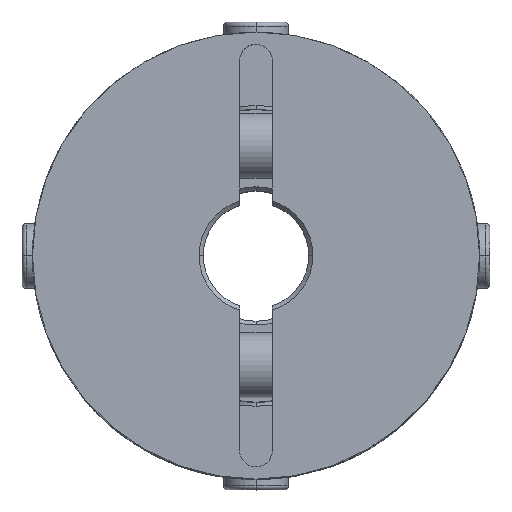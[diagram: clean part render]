
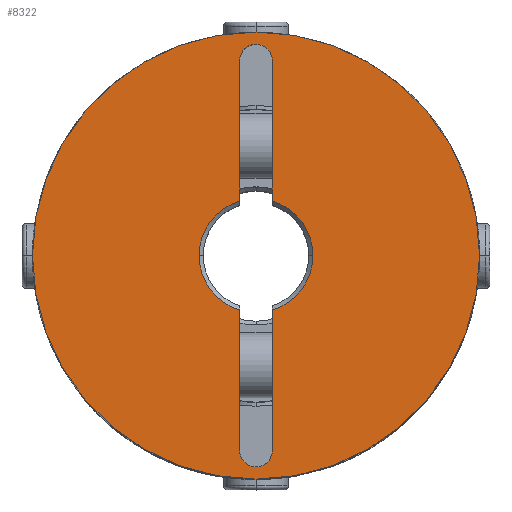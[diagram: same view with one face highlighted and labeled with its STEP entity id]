
A CAD part, top view. The second image highlights one B-rep face of the part: STEP entity #8322.
In plain terms, the highlighted planar face has unit normal (0, 0, 1).
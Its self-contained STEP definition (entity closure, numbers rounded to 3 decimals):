
#632=CARTESIAN_POINT('',(7.,0.,29.0));
#633=VERTEX_POINT('',#632);
#649=CARTESIAN_POINT('',(2.,-6.708,29.0));
#650=VERTEX_POINT('',#649);
#664=CARTESIAN_POINT('',(0.,0.0,29.0));
#665=DIRECTION('',(0.0,0.0,1.0));
#666=DIRECTION('',(-1.0,0.0,0.0));
#667=AXIS2_PLACEMENT_3D('',#664,#665,#666);
#668=CIRCLE('',#667,7.0);
#669=EDGE_CURVE('',#650,#633,#668,.T.);
#831=CARTESIAN_POINT('',(-7.,0.,29.0));
#832=VERTEX_POINT('',#831);
#839=CARTESIAN_POINT('',(-2.,-6.708,29.0));
#840=VERTEX_POINT('',#839);
#841=CARTESIAN_POINT('',(0.,0.0,29.0));
#842=DIRECTION('',(0.0,0.0,1.0));
#843=DIRECTION('',(-1.0,0.0,0.0));
#844=AXIS2_PLACEMENT_3D('',#841,#842,#843);
#845=CIRCLE('',#844,7.0);
#846=EDGE_CURVE('',#832,#840,#845,.T.);
#872=CARTESIAN_POINT('',(-1.414,25.414,29.0));
#873=VERTEX_POINT('',#872);
#889=CARTESIAN_POINT('',(2.,24.,29.0));
#890=VERTEX_POINT('',#889);
#897=CARTESIAN_POINT('',(0.,24.,29.0));
#898=DIRECTION('',(0.0,0.0,1.));
#899=DIRECTION('',(0.707,0.707,0.0));
#900=AXIS2_PLACEMENT_3D('',#897,#898,#899);
#901=CIRCLE('',#900,2.);
#902=EDGE_CURVE('',#890,#873,#901,.T.);
#914=CARTESIAN_POINT('',(1.414,-25.414,29.0));
#915=VERTEX_POINT('',#914);
#931=CARTESIAN_POINT('',(-2.,-24.,29.0));
#932=VERTEX_POINT('',#931);
#939=CARTESIAN_POINT('',(0.,-24.,29.0));
#940=DIRECTION('',(0.0,0.0,1.0));
#941=DIRECTION('',(-0.707,-0.707,0.0));
#942=AXIS2_PLACEMENT_3D('',#939,#940,#941);
#943=CIRCLE('',#942,2.0);
#944=EDGE_CURVE('',#932,#915,#943,.T.);
#1499=CARTESIAN_POINT('',(-27.5,0.,29.0));
#1500=VERTEX_POINT('',#1499);
#1507=CARTESIAN_POINT('',(27.5,0.0,29.0));
#1508=VERTEX_POINT('',#1507);
#1509=CARTESIAN_POINT('',(0.,0.0,29.0));
#1510=DIRECTION('',(0.0,0.0,-1.0));
#1511=DIRECTION('',(1.0,0.0,0.0));
#1512=AXIS2_PLACEMENT_3D('',#1509,#1510,#1511);
#1513=CIRCLE('',#1512,27.5);
#1514=EDGE_CURVE('',#1500,#1508,#1513,.T.);
#7523=CARTESIAN_POINT('',(0.,0.0,29.0));
#7524=DIRECTION('',(0.0,0.0,-1.0));
#7525=DIRECTION('',(1.0,0.0,0.0));
#7526=AXIS2_PLACEMENT_3D('',#7523,#7524,#7525);
#7527=CIRCLE('',#7526,27.5);
#7528=EDGE_CURVE('',#1508,#1500,#7527,.T.);
#8081=CARTESIAN_POINT('',(2.,-24.,29.0));
#8082=VERTEX_POINT('',#8081);
#8083=CARTESIAN_POINT('',(0.,-24.,29.0));
#8084=DIRECTION('',(0.0,0.0,1.0));
#8085=DIRECTION('',(-0.707,-0.707,0.0));
#8086=AXIS2_PLACEMENT_3D('',#8083,#8084,#8085);
#8087=CIRCLE('',#8086,2.0);
#8088=EDGE_CURVE('',#915,#8082,#8087,.T.);
#8106=CARTESIAN_POINT('',(2.,-6.708,29.0));
#8107=DIRECTION('',(0.0,-1.0,0.0));
#8108=VECTOR('',#8107,17.292);
#8109=LINE('',#8106,#8108);
#8110=EDGE_CURVE('',#650,#8082,#8109,.T.);
#8129=CARTESIAN_POINT('',(-2.,24.,29.0));
#8130=VERTEX_POINT('',#8129);
#8131=CARTESIAN_POINT('',(0.,24.,29.0));
#8132=DIRECTION('',(0.0,0.0,1.));
#8133=DIRECTION('',(0.707,0.707,0.0));
#8134=AXIS2_PLACEMENT_3D('',#8131,#8132,#8133);
#8135=CIRCLE('',#8134,2.);
#8136=EDGE_CURVE('',#873,#8130,#8135,.T.);
#8154=CARTESIAN_POINT('',(-2.,6.708,29.0));
#8155=VERTEX_POINT('',#8154);
#8156=CARTESIAN_POINT('',(-2.,6.708,29.0));
#8157=DIRECTION('',(0.0,1.0,0.0));
#8158=VECTOR('',#8157,17.292);
#8159=LINE('',#8156,#8158);
#8160=EDGE_CURVE('',#8155,#8130,#8159,.T.);
#8236=CARTESIAN_POINT('',(2.,6.708,29.0));
#8237=VERTEX_POINT('',#8236);
#8251=CARTESIAN_POINT('',(2.,24.,29.0));
#8252=DIRECTION('',(0.0,-1.0,0.0));
#8253=VECTOR('',#8252,17.292);
#8254=LINE('',#8251,#8253);
#8255=EDGE_CURVE('',#890,#8237,#8254,.T.);
#8274=CARTESIAN_POINT('',(-2.,-24.,29.0));
#8275=DIRECTION('',(0.0,1.0,0.0));
#8276=VECTOR('',#8275,17.292);
#8277=LINE('',#8274,#8276);
#8278=EDGE_CURVE('',#932,#840,#8277,.T.);
#8287=CARTESIAN_POINT('',(2.5,0.,29.0));
#8288=DIRECTION('',(0.0,0.0,1.0));
#8289=DIRECTION('',(1.0,0.0,0.0));
#8290=AXIS2_PLACEMENT_3D('',#8287,#8288,#8289);
#8291=PLANE('',#8290);
#8292=ORIENTED_EDGE('',*,*,#7528,.F.);
#8293=ORIENTED_EDGE('',*,*,#1514,.F.);
#8294=EDGE_LOOP('',(#8292,#8293));
#8295=FACE_OUTER_BOUND('',#8294,.T.);
#8296=ORIENTED_EDGE('',*,*,#8110,.T.);
#8297=ORIENTED_EDGE('',*,*,#8088,.F.);
#8298=ORIENTED_EDGE('',*,*,#944,.F.);
#8299=ORIENTED_EDGE('',*,*,#8278,.T.);
#8300=ORIENTED_EDGE('',*,*,#846,.F.);
#8301=CARTESIAN_POINT('',(0.,0.0,29.0));
#8302=DIRECTION('',(0.0,0.0,1.0));
#8303=DIRECTION('',(-1.0,0.0,0.0));
#8304=AXIS2_PLACEMENT_3D('',#8301,#8302,#8303);
#8305=CIRCLE('',#8304,7.0);
#8306=EDGE_CURVE('',#8155,#832,#8305,.T.);
#8307=ORIENTED_EDGE('',*,*,#8306,.F.);
#8308=ORIENTED_EDGE('',*,*,#8160,.T.);
#8309=ORIENTED_EDGE('',*,*,#8136,.F.);
#8310=ORIENTED_EDGE('',*,*,#902,.F.);
#8311=ORIENTED_EDGE('',*,*,#8255,.T.);
#8312=CARTESIAN_POINT('',(0.,0.0,29.0));
#8313=DIRECTION('',(0.0,0.0,1.0));
#8314=DIRECTION('',(-1.0,0.0,0.0));
#8315=AXIS2_PLACEMENT_3D('',#8312,#8313,#8314);
#8316=CIRCLE('',#8315,7.0);
#8317=EDGE_CURVE('',#633,#8237,#8316,.T.);
#8318=ORIENTED_EDGE('',*,*,#8317,.F.);
#8319=ORIENTED_EDGE('',*,*,#669,.F.);
#8320=EDGE_LOOP('',(#8296,#8297,#8298,#8299,#8300,#8307,#8308,#8309,#8310,#8311,#8318,#8319));
#8321=FACE_BOUND('',#8320,.T.);
#8322=ADVANCED_FACE('',(#8295,#8321),#8291,.T.);
